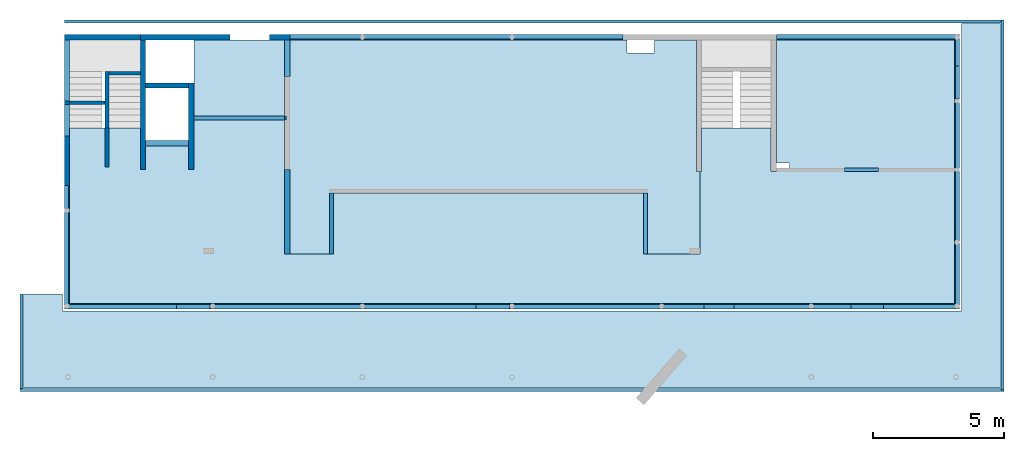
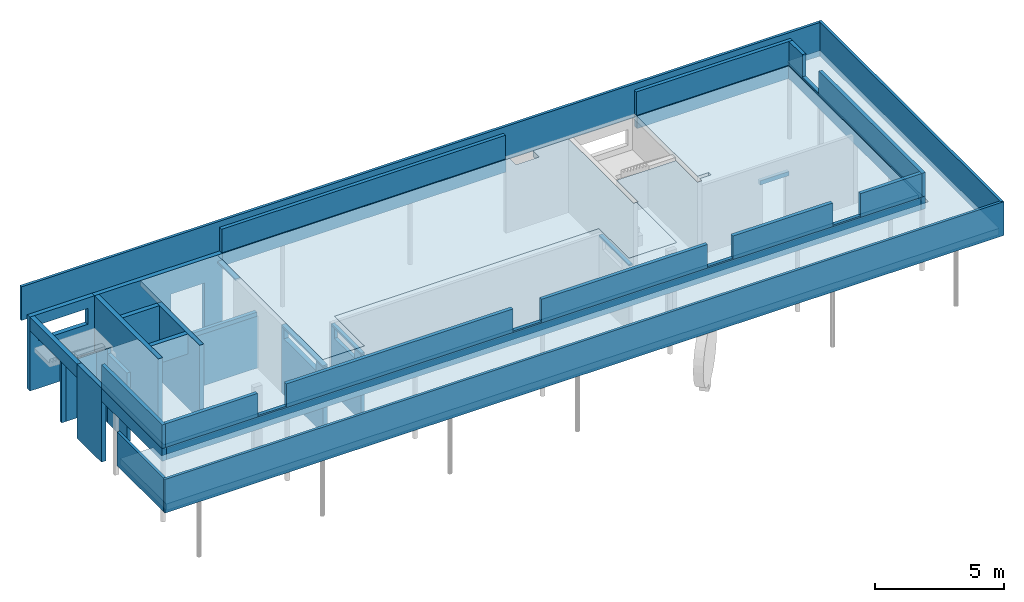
# One storey, part 3 of 5: 32 beams, 14 walls, 3 slabs, 4 openings.
"""IFC4 building model written with IfcOpenShell, lengths in metres."""

from ifc_helpers import new_model, entity, si_unit, converted_unit, derived_unit, frame, frame_2d, origin, origin_with_axes, place, context, subcontext, project, spatial, polyline, rectangle, outline, extrude, clip, halfspace, faceted_brep, material, element, save


model = new_model("IFC4")

# Units and contexts
model_context = context("Model", 3, precision=1e-05, world=origin())
plan_context = context("Plan", 2, precision=1e-05, world=origin())
body_context = subcontext(model_context, "Body", "Model", "MODEL_VIEW")
ifc_project = project(units=[si_unit("LENGTHUNIT", "METRE"), si_unit("AREAUNIT", "SQUARE_METRE"), si_unit("VOLUMEUNIT", "CUBIC_METRE"), si_unit("MASSUNIT", "GRAM", prefix="KILO"), converted_unit("PLANEANGLEUNIT", "DEGREE", entity("IfcPlaneAngleMeasure", 0.0174532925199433), si_unit("PLANEANGLEUNIT", "RADIAN"), dimensions=[0, 0, 0, 0, 0, 0, 0]), derived_unit("THERMALTRANSMITTANCEUNIT", [(si_unit("POWERUNIT", "WATT"), 1), (si_unit("THERMODYNAMICTEMPERATUREUNIT", "KELVIN"), -1), (si_unit("LENGTHUNIT", "METRE"), -2)]), derived_unit("VOLUMETRICFLOWRATEUNIT", [(si_unit("LENGTHUNIT", "METRE"), 3), (converted_unit("TIMEUNIT", "hour", entity("IfcTimeMeasure", 3600.0), si_unit("TIMEUNIT", "SECOND"), dimensions=[0, 0, 1, 0, 0, 0, 0]), -1), (si_unit("LENGTHUNIT", "METRE"), -1)])], contexts=[model_context, plan_context])

# Site, building, storey
site_placement = place(None, origin())
site = spatial("IfcSite", under=ifc_project, at=site_placement, Name="Site", CompositionType="ELEMENT")
building_placement = place(site_placement, origin())
building = spatial("IfcBuilding", under=site, at=building_placement, Name="Admin", CompositionType="ELEMENT")
storey_placement = place(building_placement, frame((0.0, 0.0, -0.26)))
storey = spatial("IfcBuildingStorey", under=building, at=storey_placement, Name="00-Rez", CompositionType="ELEMENT", Elevation=-0.26)

# Beams
ifc_material_1 = material(Name="C30/37")
beam_1_placement = place(storey_placement, frame((53.8198042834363, 17.1094493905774, 2.38)))
element("IfcBeam", 1, at=beam_1_placement, inside=storey, material=ifc_material_1, Name="Linteau préfab.", PredefinedType="NOTDEFINED", context=body_context, shape_type="SweptSolid", body=[
    extrude(rectangle(XDim=0.15, YDim=0.2, at=frame_2d((0.075, 0.1), x_axis=(1.0, 0.0))), frame((0.0, 0.0, 0.0), z_axis=(1.0, 0.0, 0.0), x_axis=(0.0, 1.0, 0.0)), (0.0, 0.0, 1.0), 1.309995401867),
])
ifc_material_2 = material(Name="Béton architectonique")
beam_2_placement = place(storey_placement, frame((59.7997996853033, 22.9094493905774, 2.96), z_axis=(0.0, 0.0, 1.0), x_axis=(-1.0, 0.0, 0.0)))
element("IfcBeam", 2, at=beam_2_placement, inside=storey, material=ifc_material_2, Name="PBAr.0.04", PredefinedType="NOTDEFINED", context=body_context, shape_type="SweptSolid", body=[
    extrude(rectangle(XDim=0.12, YDim=1.6, at=frame_2d((0.06, 0.8), x_axis=(1.0, 0.0))), frame((0.0, 0.0, 0.0), z_axis=(1.0, 0.0, 0.0), x_axis=(0.0, 1.0, 0.0)), (0.0, 0.0, 1.0), 35.7998609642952),
])
ifc_material_3 = material(Name="Béton architectonique")
beam_3_placement = place(storey_placement, frame((22.2998001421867, 8.70944939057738, 2.96)))
element("IfcBeam", 3, at=beam_3_placement, inside=storey, material=ifc_material_3, Name="PBAr.0.02", PredefinedType="NOTDEFINED", context=body_context, shape_type="Brep", body=[
    faceted_brep([(-3.63797880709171e-15, 0.12, 0.0), (37.4999995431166, 0.12, 0.0), (37.4999995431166, 0.12, 1.6), (-3.63797880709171e-15, 0.12, 1.6), (37.4999995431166, 0.05, 0.0), (37.4999995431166, 0.05, 1.6), (37.6199995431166, 0.05, 0.0), (37.6199995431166, 0.05, 1.6), (37.6199995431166, 0.0, 0.0), (37.6199995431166, 0.0, 1.6), (-3.63797880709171e-15, 0.0, 0.0), (-3.63797880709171e-15, 0.0, 1.6)], [[[0, 1, 2, 3]], [[1, 4, 5, 2]], [[4, 6, 7, 5]], [[6, 8, 9, 7]], [[8, 10, 11, 9]], [[10, 0, 3, 11]], [[11, 3, 2, 5, 7, 9]], [[0, 10, 8, 6, 4, 1]]], orient=[[False], [False], [False], [False], [False], [False], [False], [False]]),
])
ifc_material_4 = material(Name="Béton architectonique")
beam_4_placement = place(storey_placement, frame((22.2998001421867, 12.4294494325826, 2.96), z_axis=(0.0, 0.0, 1.0), x_axis=(0.0, -1.0, 0.0)))
element("IfcBeam", 4, at=beam_4_placement, inside=storey, material=ifc_material_4, Name="PBAr.0.01", PredefinedType="NOTDEFINED", context=body_context, shape_type="SweptSolid", body=[
    extrude(rectangle(XDim=0.12, YDim=1.6, at=frame_2d((0.06, 0.8), x_axis=(1.0, 0.0))), frame((0.0, 0.0, 0.0), z_axis=(1.0, 0.0, 0.0), x_axis=(0.0, 1.0, 0.0)), (0.0, 0.0, 1.0), 3.60000004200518),
])
ifc_material_5 = material(Name="Béton architectonique")
beam_5_placement = place(storey_placement, frame((59.9197996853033, 8.75944939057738, 2.96), z_axis=(0.0, 0.0, 1.0), x_axis=(0.0, 1.0, 0.0)))
element("IfcBeam", 5, at=beam_5_placement, inside=storey, material=ifc_material_5, Name="PBAr.0.03", PredefinedType="NOTDEFINED", context=body_context, shape_type="SweptSolid", body=[
    extrude(rectangle(XDim=0.12, YDim=1.6, at=frame_2d((0.06, 0.8), x_axis=(1.0, 0.0))), frame((0.0, 0.0, 0.0), z_axis=(1.0, 0.0, 0.0), x_axis=(0.0, 1.0, 0.0)), (0.0, 0.0, 1.0), 14.15),
])
ifc_material_6 = material(Name="C30/37")
beam_6_placement = place(storey_placement, frame((48.4598001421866, 11.8694493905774, 3.51)))
element("IfcBeam", 6, at=beam_6_placement, inside=storey, material=ifc_material_6, Name="PBA.0.02", PredefinedType="NOTDEFINED", context=body_context, shape_type="SweptSolid", body=[
    extrude(rectangle(XDim=0.16, YDim=0.07, at=frame_2d((0.08, 0.035), x_axis=(1.0, 0.0))), frame((0.0, 0.0, 0.0), z_axis=(1.0, 0.0, 0.0), x_axis=(0.0, 1.0, 0.0)), (0.0, 0.0, 1.0), 1.12999954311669),
])
ifc_material_7 = material(Name="C30/37")
beam_7_placement = place(storey_placement, frame((39.7297996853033, 11.8694493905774, 3.51)))
element("IfcBeam", 7, at=beam_7_placement, inside=storey, material=ifc_material_7, Name="PBA.0.02", PredefinedType="NOTDEFINED", context=body_context, shape_type="SweptSolid", body=[
    extrude(rectangle(XDim=0.16, YDim=0.07, at=frame_2d((0.08, 0.035), x_axis=(1.0, 0.0))), frame((0.0, 0.0, 0.0), z_axis=(1.0, 0.0, 0.0), x_axis=(0.0, 1.0, 0.0)), (0.0, 0.0, 1.0), 1.28),
])
ifc_material_8 = material(Name="C30/37")
beam_8_placement = place(storey_placement, frame((41.0097996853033, 11.8694493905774, 3.51)))
element("IfcBeam", 8, at=beam_8_placement, inside=storey, material=ifc_material_8, Name="PBA.0.02", PredefinedType="NOTDEFINED", context=body_context, shape_type="SweptSolid", body=[
    extrude(rectangle(XDim=0.16, YDim=1.12, at=frame_2d((0.08, 0.56), x_axis=(1.0, 0.0))), frame((0.0, 0.0, 0.0), z_axis=(1.0, 0.0, 0.0), x_axis=(0.0, 1.0, 0.0)), (0.0, 0.0, 1.0), 7.4500004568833),
])
ifc_material_9 = material(Name="C30/37")
beam_9_placement = place(storey_placement, frame((29.5698001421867, 11.8694493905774, 3.51)))
element("IfcBeam", 9, at=beam_9_placement, inside=storey, material=ifc_material_9, Name="PBA.0.02", PredefinedType="NOTDEFINED", context=body_context, shape_type="SweptSolid", body=[
    extrude(rectangle(XDim=0.16, YDim=1.12, at=frame_2d((0.08, 0.56), x_axis=(1.0, 0.0))), frame((0.0, 0.0, 0.0), z_axis=(1.0, 0.0, 0.0), x_axis=(0.0, 1.0, 0.0)), (0.0, 0.0, 1.0), 10.1599995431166),
])
ifc_material_10 = material(Name="C30/37")
beam_10_placement = place(storey_placement, frame((28.2898001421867, 11.8694493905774, 3.51)))
element("IfcBeam", 10, at=beam_10_placement, inside=storey, material=ifc_material_10, Name="PBA.0.02", PredefinedType="NOTDEFINED", context=body_context, shape_type="SweptSolid", body=[
    extrude(rectangle(XDim=0.16, YDim=0.07, at=frame_2d((0.08, 0.035), x_axis=(1.0, 0.0))), frame((0.0, 0.0, 0.0), z_axis=(1.0, 0.0, 0.0), x_axis=(0.0, 1.0, 0.0)), (0.0, 0.0, 1.0), 1.28),
])
ifc_material_11 = material(Name="C30/37")
beam_11_placement = place(storey_placement, frame((49.5897996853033, 11.8694493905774, 3.51)))
element("IfcBeam", 11, at=beam_11_placement, inside=storey, material=ifc_material_11, Name="PBA.0.02", PredefinedType="NOTDEFINED", context=body_context, shape_type="SweptSolid", body=[
    extrude(rectangle(XDim=0.16, YDim=1.12, at=frame_2d((0.08, 0.56), x_axis=(1.0, 0.0))), frame((0.0, 0.0, 0.0), z_axis=(1.0, 0.0, 0.0), x_axis=(0.0, 1.0, 0.0)), (0.0, 0.0, 1.0), 4.48),
])
ifc_material_12 = material(Name="C30/37")
beam_12_placement = place(storey_placement, frame((55.3097996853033, 11.8694493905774, 3.51)))
element("IfcBeam", 12, at=beam_12_placement, inside=storey, material=ifc_material_12, Name="PBA.0.02", PredefinedType="NOTDEFINED", context=body_context, shape_type="SweptSolid", body=[
    extrude(rectangle(XDim=0.16, YDim=1.12, at=frame_2d((0.08, 0.56), x_axis=(1.0, 0.0))), frame((0.0, 0.0, 0.0), z_axis=(1.0, 0.0, 0.0), x_axis=(0.0, 1.0, 0.0)), (0.0, 0.0, 1.0), 2.75000000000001),
])
ifc_material_13 = material(Name="C30/37")
beam_13_placement = place(storey_placement, frame((54.0697996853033, 11.8694493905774, 3.51)))
element("IfcBeam", 13, at=beam_13_placement, inside=storey, material=ifc_material_13, Name="PBA.0.02", PredefinedType="NOTDEFINED", context=body_context, shape_type="SweptSolid", body=[
    extrude(rectangle(XDim=0.16, YDim=0.07, at=frame_2d((0.08, 0.035), x_axis=(1.0, 0.0))), frame((0.0, 0.0, 0.0), z_axis=(1.0, 0.0, 0.0), x_axis=(0.0, 1.0, 0.0)), (0.0, 0.0, 1.0), 1.24),
])
ifc_material_14 = material(Name="C30/37")
beam_14_placement = place(storey_placement, frame((58.2197996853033, 19.8844493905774, 3.51), z_axis=(0.0, 0.0, 1.0), x_axis=(0.0, 1.0, 0.0)))
element("IfcBeam", 14, at=beam_14_placement, inside=storey, material=ifc_material_14, Name="PBA.0.03", PredefinedType="NOTDEFINED", context=body_context, shape_type="SweptSolid", body=[
    extrude(rectangle(XDim=0.16, YDim=0.07, at=frame_2d((0.08, 0.035), x_axis=(1.0, 0.0))), frame((0.0, 0.0, 0.0), z_axis=(1.0, 0.0, 0.0), x_axis=(0.0, 1.0, 0.0)), (0.0, 0.0, 1.0), 1.26499993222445),
])
ifc_material_15 = material(Name="C30/37")
beam_15_placement = place(storey_placement, frame((58.2197996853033, 21.1494493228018, 3.51), z_axis=(0.0, 0.0, 1.0), x_axis=(0.0, 1.0, 0.0)))
element("IfcBeam", 15, at=beam_15_placement, inside=storey, material=ifc_material_15, Name="PBA.0.03", PredefinedType="NOTDEFINED", context=body_context, shape_type="SweptSolid", body=[
    extrude(rectangle(XDim=0.16, YDim=1.12, at=frame_2d((0.08, 0.56), x_axis=(1.0, 0.0))), frame((0.0, 0.0, 0.0), z_axis=(1.0, 0.0, 0.0), x_axis=(0.0, 1.0, 0.0)), (0.0, 0.0, 1.0), 1.04000006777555),
])
ifc_material_16 = material(Name="C30/37")
beam_16_placement = place(storey_placement, frame((24.1598001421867, 11.8694493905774, 3.51)))
element("IfcBeam", 16, at=beam_16_placement, inside=storey, material=ifc_material_16, Name="PBA.0.02", PredefinedType="NOTDEFINED", context=body_context, shape_type="SweptSolid", body=[
    extrude(rectangle(XDim=0.16, YDim=1.12, at=frame_2d((0.08, 0.56), x_axis=(1.0, 0.0))), frame((0.0, 0.0, 0.0), z_axis=(1.0, 0.0, 0.0), x_axis=(0.0, 1.0, 0.0)), (0.0, 0.0, 1.0), 4.12999999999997),
])
ifc_material_17 = material(Name="C30/37")
beam_17_placement = place(storey_placement, frame((58.2197996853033, 11.8694493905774, 3.51), z_axis=(0.0, 0.0, 1.0), x_axis=(0.0, 1.0, 0.0)))
element("IfcBeam", 17, at=beam_17_placement, inside=storey, material=ifc_material_17, Name="PBA.0.03", PredefinedType="NOTDEFINED", context=body_context, shape_type="SweptSolid", body=[
    extrude(rectangle(XDim=0.16, YDim=1.12, at=frame_2d((0.08, 0.56), x_axis=(1.0, 0.0))), frame((0.0, 0.0, 0.0), z_axis=(1.0, 0.0, 0.0), x_axis=(0.0, 1.0, 0.0)), (0.0, 0.0, 1.0), 8.01500005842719),
])
ifc_material_18 = material(Name="C30/37")
beam_18_placement = place(storey_placement, frame((24.1998001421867, 11.8694493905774, 2.91)))
element("IfcBeam", 18, at=beam_18_placement, inside=storey, material=ifc_material_18, Name="PBA.0.02", PredefinedType="NOTDEFINED", context=body_context, shape_type="SweptSolid", body=[
    extrude(rectangle(XDim=0.2, YDim=0.6, at=frame_2d((0.1, 0.3), x_axis=(1.0, 0.0))), frame((0.0, 0.0, 0.0), z_axis=(1.0, 0.0, 0.0), x_axis=(0.0, 1.0, 0.0)), (0.0, 0.0, 1.0), 33.8199995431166),
])
ifc_material_19 = material(Name="C30/37")
beam_19_placement = place(storey_placement, frame((58.2197996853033, 11.8694493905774, 2.91), z_axis=(0.0, 0.0, 1.0), x_axis=(0.0, 1.0, 0.0)))
element("IfcBeam", 19, at=beam_19_placement, inside=storey, material=ifc_material_19, Name="PBA.0.03", PredefinedType="NOTDEFINED", context=body_context, shape_type="SweptSolid", body=[
    extrude(rectangle(XDim=0.2, YDim=0.6, at=frame_2d((0.1, 0.3), x_axis=(1.0, 0.0))), frame((0.0, 0.0, 0.0), z_axis=(1.0, 0.0, 0.0), x_axis=(0.0, 1.0, 0.0)), (0.0, 0.0, 1.0), 10.28),
])
ifc_material_20 = material(Name="C30/37")
beam_20_placement = place(storey_placement, frame((27.0998295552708, 18.0994421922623, 2.56)))
element("IfcBeam", 20, at=beam_20_placement, inside=storey, material=ifc_material_20, Name="PBA.0.06", PredefinedType="NOTDEFINED", context=body_context, shape_type="SweptSolid", body=[
    extrude(rectangle(XDim=0.2, YDim=0.95, at=frame_2d((0.1, 0.475), x_axis=(1.0, 0.0))), frame((0.0, 0.0, 0.0), z_axis=(1.0, 0.0, 0.0), x_axis=(0.0, 1.0, 0.0)), (0.0, 0.0, 1.0), 1.65),
])
ifc_material_21 = material(Name="C30/37")
beam_21_placement = place(storey_placement, frame((28.9498295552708, 19.0895230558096, 2.46)))
element("IfcBeam", 21, at=beam_21_placement, inside=storey, material=ifc_material_21, Name="PBA.0.07", PredefinedType="NOTDEFINED", context=body_context, shape_type="SweptSolid", body=[
    extrude(rectangle(XDim=0.15, YDim=0.2, at=frame_2d((0.075, 0.1), x_axis=(1.0, 0.0))), frame((0.0, 0.0, 0.0), z_axis=(1.0, 0.0, 0.0), x_axis=(0.0, 1.0, 0.0)), (0.0, 0.0, 1.0), 3.46599017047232),
])
ifc_material_22 = material(Name="C30/37")
beam_22_placement = place(storey_placement, frame((32.4158197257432, 17.1894528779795, 3.13), z_axis=(0.0, 0.0, 1.0), x_axis=(0.0, -1.0, 0.0)))
element("IfcBeam", 22, at=beam_22_placement, inside=storey, material=ifc_material_22, Name="PBA.0.09", PredefinedType="NOTDEFINED", context=body_context, shape_type="SweptSolid", body=[
    extrude(rectangle(XDim=0.214, YDim=0.08, at=frame_2d((0.107, 0.04), x_axis=(1.0, 0.0))), frame((0.0, 0.0, 0.0), z_axis=(1.0, 0.0, 0.0), x_axis=(0.0, 1.0, 0.0)), (0.0, 0.0, 1.0), 3.22),
])
ifc_material_23 = material(Name="C30/37")
beam_23_placement = place(storey_placement, frame((46.1398001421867, 16.2894493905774, 3.13), z_axis=(0.0, 0.0, 1.0), x_axis=(0.0, -1.0, 0.0)))
element("IfcBeam", 23, at=beam_23_placement, inside=storey, material=ifc_material_23, Name="PBA.0.11", PredefinedType="NOTDEFINED", context=body_context, shape_type="SweptSolid", body=[
    extrude(rectangle(XDim=0.15, YDim=0.08, at=frame_2d((0.075, 0.04), x_axis=(1.0, 0.0))), frame((0.0, 0.0, 0.0), z_axis=(1.0, 0.0, 0.0), x_axis=(0.0, 1.0, 0.0)), (0.0, 0.0, 1.0), 2.31944939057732),
])
ifc_material_24 = material(Name="C30/37")
beam_24_placement = place(storey_placement, frame((34.1298183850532, 16.2894531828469, 3.13), z_axis=(0.0, 0.0, 1.0), x_axis=(0.0, -1.0, 0.0)))
element("IfcBeam", 24, at=beam_24_placement, inside=storey, material=ifc_material_24, Name="PBA.0.10", PredefinedType="NOTDEFINED", context=body_context, shape_type="SweptSolid", body=[
    extrude(rectangle(XDim=0.15, YDim=0.08, at=frame_2d((0.075, 0.04), x_axis=(1.0, 0.0))), frame((0.0, 0.0, 0.0), z_axis=(1.0, 0.0, 0.0), x_axis=(0.0, 1.0, 0.0)), (0.0, 0.0, 1.0), 2.32),
])
ifc_material_25 = material(Name="C30/37")
beam_25_placement = place(storey_placement, frame((32.4158197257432, 22.1494528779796, 3.13), z_axis=(0.0, 0.0, 1.0), x_axis=(0.0, -1.0, 0.0)))
element("IfcBeam", 25, at=beam_25_placement, inside=storey, material=ifc_material_25, Name="PBA.0.08", PredefinedType="NOTDEFINED", context=body_context, shape_type="SweptSolid", body=[
    extrude(rectangle(XDim=0.214, YDim=0.08, at=frame_2d((0.107, 0.04), x_axis=(1.0, 0.0))), frame((0.0, 0.0, 0.0), z_axis=(1.0, 0.0, 0.0), x_axis=(0.0, 1.0, 0.0)), (0.0, 0.0, 1.0), 1.40000000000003),
])
ifc_material_26 = material(Name="C30/37")
beam_26_placement = place(storey_placement, frame((23.9998001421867, 22.1494493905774, 2.87), z_axis=(0.0, 0.0, 1.0), x_axis=(0.0, -1.0, 0.0)))
element("IfcBeam", 26, at=beam_26_placement, inside=storey, material=ifc_material_26, Name="PBA.0.12", PredefinedType="NOTDEFINED", context=body_context, shape_type="SweptSolid", body=[
    extrude(rectangle(XDim=0.2, YDim=0.64, at=frame_2d((0.1, 0.32), x_axis=(1.0, 0.0))), frame((0.0, 0.0, 0.0), z_axis=(1.0, 0.0, 0.0), x_axis=(0.0, 1.0, 0.0)), (0.0, 0.0, 1.0), 3.67989420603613),
])
ifc_material_27 = material(Name="C30/37")
beam_27_placement = place(storey_placement, frame((23.9998001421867, 16.5894493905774, 3.51), z_axis=(0.0, 0.0, 1.0), x_axis=(0.0, -1.0, 0.0)))
element("IfcBeam", 27, at=beam_27_placement, inside=storey, material=ifc_material_27, Name="PBA.0.01", PredefinedType="NOTDEFINED", context=body_context, shape_type="SweptSolid", body=[
    extrude(rectangle(XDim=0.16, YDim=1.12, at=frame_2d((0.08, 0.56), x_axis=(1.0, 0.0))), frame((0.0, 0.0, 0.0), z_axis=(1.0, 0.0, 0.0), x_axis=(0.0, 1.0, 0.0)), (0.0, 0.0, 1.0), 4.72),
])
ifc_material_28 = material(Name="C30/37")
beam_28_placement = place(storey_placement, frame((23.9998001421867, 16.5894493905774, 2.91), z_axis=(0.0, 0.0, 1.0), x_axis=(0.0, -1.0, 0.0)))
element("IfcBeam", 28, at=beam_28_placement, inside=storey, material=ifc_material_28, Name="PBA.0.01", PredefinedType="NOTDEFINED", context=body_context, shape_type="SweptSolid", body=[
    extrude(rectangle(XDim=0.2, YDim=0.6, at=frame_2d((0.1, 0.3), x_axis=(1.0, 0.0))), frame((0.0, 0.0, 0.0), z_axis=(1.0, 0.0, 0.0), x_axis=(0.0, 1.0, 0.0)), (0.0, 0.0, 1.0), 4.72),
])
ifc_material_29 = material(Name="C30/37")
beam_29_placement = place(storey_placement, frame((58.2197996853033, 22.3494493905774, 3.51), z_axis=(0.0, 0.0, 1.0), x_axis=(-1.0, 0.0, 0.0)))
element("IfcBeam", 29, at=beam_29_placement, inside=storey, material=ifc_material_29, Name="PBA.0.04", PredefinedType="NOTDEFINED", context=body_context, shape_type="SweptSolid", body=[
    extrude(rectangle(XDim=0.16, YDim=1.12, at=frame_2d((0.08, 0.56), x_axis=(1.0, 0.0))), frame((0.0, 0.0, 0.0), z_axis=(1.0, 0.0, 0.0), x_axis=(0.0, 1.0, 0.0)), (0.0, 0.0, 1.0), 6.9999995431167),
])
ifc_material_30 = material(Name="C30/37")
beam_30_placement = place(storey_placement, frame((58.2197996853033, 22.3494493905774, 2.91), z_axis=(0.0, 0.0, 1.0), x_axis=(-1.0, 0.0, 0.0)))
element("IfcBeam", 30, at=beam_30_placement, inside=storey, material=ifc_material_30, Name="PBA.0.04", PredefinedType="NOTDEFINED", context=body_context, shape_type="SweptSolid", body=[
    extrude(rectangle(XDim=0.2, YDim=0.6, at=frame_2d((0.1, 0.3), x_axis=(1.0, 0.0))), frame((0.0, 0.0, 0.0), z_axis=(1.0, 0.0, 0.0), x_axis=(0.0, 1.0, 0.0)), (0.0, 0.0, 1.0), 6.9999995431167),
])
ifc_material_31 = material(Name="C30/37")
beam_31_placement = place(storey_placement, frame((45.3498001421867, 22.3494493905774, 2.91), z_axis=(0.0, 0.0, 1.0), x_axis=(-0.99999999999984, -5.65906599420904e-07, 0.0)))
element("IfcBeam", 31, at=beam_31_placement, inside=storey, material=ifc_material_31, Name="PBA.0.05", PredefinedType="NOTDEFINED", context=body_context, shape_type="SweptSolid", body=[
    extrude(rectangle(XDim=0.199999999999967, YDim=0.6, at=frame_2d((0.0999999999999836, 0.3), x_axis=(1.0, 0.0))), frame((0.0, 0.0, 0.0), z_axis=(1.0, 0.0, 0.0), x_axis=(0.0, 1.0, 0.0)), (0.0, 0.0, 1.0), 12.7199701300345),
])
ifc_material_32 = material(Name="C30/37")
beam_32_placement = place(storey_placement, frame((45.3498001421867, 22.3494493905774, 3.51), z_axis=(0.0, 0.0, 1.0), x_axis=(-0.99999999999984, -5.65906599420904e-07, 0.0)))
element("IfcBeam", 32, at=beam_32_placement, inside=storey, material=ifc_material_32, Name="PBA.0.05", PredefinedType="NOTDEFINED", context=body_context, shape_type="SweptSolid", body=[
    extrude(rectangle(XDim=0.159999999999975, YDim=1.12, at=frame_2d((0.0799999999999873, 0.56), x_axis=(1.0, 0.0))), frame((0.0, 0.0, 0.0), z_axis=(1.0, 0.0, 0.0), x_axis=(0.0, 1.0, 0.0)), (0.0, 0.0, 1.0), 12.7199701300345),
])

# Slabs
ifc_material_33 = material(Name="C30/37")
slab_1_placement = place(storey_placement, frame((22.4398001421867, 8.84944939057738, 2.96)))
element("IfcSlab", 33, at=slab_1_placement, inside=storey, material=ifc_material_33, Name="Balcon", PredefinedType="FLOOR", context=body_context, shape_type="SweptSolid", body=[
    extrude(outline(polyline([(0.0, 3.58000004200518), (0.0, 0.0), (37.3399995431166, 0.0), (37.3399995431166, 13.92), (35.8599995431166, 13.92), (35.8599995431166, 2.94), (1.48000000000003, 2.94), (1.48000000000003, 3.58000004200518), (0.0, 3.58000004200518)])), origin_with_axes(), (0.0, 0.0, 1.0), 0.3),
])
ifc_material_34 = material(Name="C30/37")
slab_2_placement = place(storey_placement, frame((24.1998001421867, 12.0694493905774, 3.26)))
element("IfcSlab", 34, at=slab_2_placement, inside=storey, material=ifc_material_34, Name="Dalle Admin. 25 cm", PredefinedType="FLOOR", context=body_context, shape_type="SweptSolid", body=[
    extrude(outline(polyline([(8.21601958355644, 10.079992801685), (4.75002941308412, 10.079992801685), (4.75002941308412, 5.12999280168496), (4.55002941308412, 5.12999280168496), (4.55002941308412, 6.02999280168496), (2.90002941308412, 6.02999280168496), (2.90002941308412, 5.12999280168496), (2.70002941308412, 5.12999280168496), (2.70002941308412, 6.71999280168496), (0.0, 6.72), (0.0, 0.0), (33.8199995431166, 0.0), (33.8199995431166, 10.08), (27.0199999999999, 10.08), (27.0199999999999, 5.38), (27.5199999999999, 5.38), (27.5199999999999, 5.19), (27.0199999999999, 5.19), (27.0199999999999, 5.04), (26.8199999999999, 5.04), (26.8199999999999, 6.72), (24.1599999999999, 6.72), (24.1599999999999, 5.04), (24.0899999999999, 5.04), (24.0899999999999, 1.9), (21.94, 1.9), (21.94, 4.22), (10.0800182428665, 4.22000379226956), (10.0800182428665, 1.90000379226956), (8.21601958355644, 1.89999280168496), (8.21601958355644, 1.90000348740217), (8.21601958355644, 10.079992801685)])), origin_with_axes(), (0.0, 0.0, 1.0), 0.25),
])
ifc_material_35 = material(Name="C30/37")
slab_3_placement = place(storey_placement, frame((32.4158197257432, 13.9694421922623, 3.21)))
element("IfcSlab", 35, at=slab_3_placement, inside=storey, material=ifc_material_35, Name="Dalle Admin. 30 cm", PredefinedType="FLOOR", context=body_context, shape_type="SweptSolid", body=[
    extrude(outline(polyline([(0.0, 8.18000000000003), (0.0, 0.0), (1.86399865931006, 1.09905845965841e-05), (1.86399865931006, 2.3200109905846), (13.7239804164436, 2.32000719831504), (13.7239804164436, 7.19831504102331e-06), (15.8739804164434, 7.19831504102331e-06), (15.8739804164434, 3.14000719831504), (15.7439804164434, 3.14000719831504), (15.7439804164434, 8.18000719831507), (14.1439799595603, 8.18000719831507), (14.1439799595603, 7.68000719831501), (13.0939804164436, 7.68000719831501), (13.0939804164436, 8.18000719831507), (0.0, 8.18000000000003)])), origin_with_axes(), (0.0, 0.0, 1.0), 0.3),
])

# Wall, opening
ifc_material_36 = material(Name="C30/37")
wall_1_placement = place(storey_placement, frame((26.5998196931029, 22.3495206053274, -2.27373675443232e-16), z_axis=(0.0, 0.0, 1.0), x_axis=(-0.999999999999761, -6.91698342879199e-07, 0.0)))
wall_1 = element("IfcWall", 36, at=wall_1_placement, inside=storey, material=ifc_material_36, Name="Voile BA Axe 2.6", context=body_context, shape_type="SweptSolid", body=[
    extrude(outline(polyline([(-2.6000196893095, -0.20007661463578), (-0.400019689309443, -0.20007661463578), (-1.38344647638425e-07, -0.200007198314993), (-4.97906258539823e-12, -7.19831504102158e-06), (-0.400019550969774, -7.66146358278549e-05), (-2.60001955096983, -7.66146358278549e-05), (-2.90002941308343, 2.00594553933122e-06), (-2.90008182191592, -0.199985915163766), (-2.6000196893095, -0.20007661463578)])), frame((2.6000196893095, 0.20007661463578, 0.0), z_axis=(0.0, 0.0, 1.0), x_axis=(1.0, 0.0, 0.0)), (0.0, 0.0, 1.0), 3.51),
])
opening_1_placement = place(wall_1_placement, frame((2.20000013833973, 0.199999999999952, 2.26), z_axis=(-1.17479430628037e-10, -1.0, 0.0), x_axis=(0.0, 0.0, 1.0)))
element("IfcOpeningElement", 37, at=opening_1_placement, cuts=wall_1, Name="Baie de fenêtre", ObjectType="Opening", context=body_context, shape_type="SweptSolid", body=[
    extrude(outline(polyline([(0.0, 2.20000000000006), (0.75, 2.20000000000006), (0.75, 0.0), (0.0, 0.0), (0.0, 2.20000000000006)])), origin_with_axes(), (0.0, 0.0, 1.0), 0.2),
])

ifc_material_37 = material(Name="C30/37")
wall_2_placement = place(storey_placement, frame((32.6298300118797, 22.3495724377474, -2.27373675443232e-16), z_axis=(0.0, 0.0, 1.0), x_axis=(-0.99999999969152, -2.48386782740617e-05, 0.0)))
wall_2 = element("IfcWall", 38, at=wall_2_placement, inside=storey, material=ifc_material_37, Name="Voile BA Axe 2.6", context=body_context, shape_type="SweptSolid", body=[
    extrude(outline(polyline([(-5.73000542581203, -0.199987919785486), (-5.72379367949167e-05, -0.199987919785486), (0.0, 0.0), (-2.04999999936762, 5.09192904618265e-05), (-3.42998887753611, 1.20801528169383e-05), (-4.92998887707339, 4.93381702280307e-05), (-5.73000087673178, 0.000142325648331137), (-5.73000542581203, -0.199987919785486)])), frame((5.73000542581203, 0.199987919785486, 0.0), z_axis=(0.0, 0.0, 1.0), x_axis=(1.0, 0.0, 0.0)), (0.0, 0.0, 1.0), 3.51),
])
opening_2_placement = place(wall_2_placement, frame((0.800011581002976, 3.72577301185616e-05, 2.27373675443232e-16), z_axis=(2.48386782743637e-05, 0.99999999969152, 0.0), x_axis=(0.0, 0.0, 1.0)))
element("IfcOpeningElement", 39, at=opening_2_placement, cuts=wall_2, Name="Baie de porte", ObjectType="Opening", context=body_context, shape_type="SweptSolid", body=[
    extrude(outline(polyline([(0.0, 1.5), (2.38, 1.5), (2.38, 0.0), (0.0, 0.0), (0.0, 1.5)])), origin_with_axes(), (0.0, 0.0, 1.0), 0.2),
])

# Walls
ifc_material_38 = material(Name="C30/37")
wall_3_placement = place(storey_placement, frame((28.9498295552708, 17.1994421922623, -2.27373675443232e-16), z_axis=(0.0, 0.0, 1.0), x_axis=(0.0, 1.0, 0.0)))
element("IfcWall", 40, at=wall_3_placement, inside=storey, material=ifc_material_38, Name="Voile BA Esc. RDC", context=body_context, shape_type="SweptSolid", body=[
    extrude(rectangle(XDim=3.31, YDim=0.200000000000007, at=frame_2d((1.655, 0.100000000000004), x_axis=(1.0, 0.0))), origin_with_axes(), (0.0, 0.0, 1.0), 3.51),
])
ifc_material_39 = material(Name="C30/37")
wall_4_placement = place(storey_placement, frame((28.7498295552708, 20.5094421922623, -2.27373675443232e-16), z_axis=(0.0, 0.0, 1.0), x_axis=(-1.0, 0.0, 0.0)))
element("IfcWall", 41, at=wall_4_placement, inside=storey, material=ifc_material_39, Name="Voile BA Asc. RDC", context=body_context, shape_type="SweptSolid", body=[
    extrude(rectangle(XDim=1.65, YDim=0.2, at=frame_2d((0.824999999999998, 0.1), x_axis=(1.0, 0.0))), origin_with_axes(), (0.0, 0.0, 1.0), 3.51),
])
ifc_material_40 = material(Name="C30/37")
wall_5_placement = place(storey_placement, frame((26.8998295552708, 22.1494421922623, -2.27373675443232e-16), z_axis=(0.0, 0.0, 1.0), x_axis=(0.0, -1.0, 0.0)))
element("IfcWall", 42, at=wall_5_placement, inside=storey, material=ifc_material_40, Name="Voile BA Esc. RDC", context=body_context, shape_type="SweptSolid", body=[
    extrude(rectangle(XDim=4.95, YDim=0.2, at=frame_2d((2.475, 0.1), x_axis=(1.0, 0.0))), origin_with_axes(), (0.0, 0.0, 1.0), 3.51),
])
ifc_material_41 = material(Name="Silico-calcaire 15 cm")
wall_6_placement = place(storey_placement, frame((25.5498206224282, 20.9494493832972, 2.27373675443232e-16), z_axis=(0.0, 0.0, 1.0), x_axis=(8.17137453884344e-08, -0.999999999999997, 0.0)))
element("IfcWall", 43, at=wall_6_placement, inside=storey, material=ifc_material_41, Name="Maçonnerie Admin.", context=body_context, shape_type="Clipping", body=[
    clip(extrude(rectangle(XDim=2.15990000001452, YDim=0.149999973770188, at=frame_2d((1.07995000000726, 0.0749999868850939), x_axis=(1.0, 0.0))), origin_with_axes(), (0.0, 0.0, 1.0), 3.52018375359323), halfspace(frame((1.07995000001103, 0.0749999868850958, 2.68268374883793), z_axis=(0.612817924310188, -5.00756508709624e-08, -0.79022414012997), x_axis=(0.790224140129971, 0.0, 0.612817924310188)), True)),
])
ifc_material_42 = material(Name="Silico-calcaire 15 cm")
wall_7_placement = place(storey_placement, frame((26.8998295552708, 20.9494423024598, 0.0), z_axis=(0.0, 0.0, 1.0), x_axis=(-0.999999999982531, 5.91085585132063e-06, 0.0)))
element("IfcWall", 44, at=wall_7_placement, inside=storey, material=ifc_material_42, Name="Maçonnerie Admin.", context=body_context, shape_type="SweptSolid", body=[
    extrude(rectangle(XDim=1.20000895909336, YDim=0.149999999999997, at=frame_2d((0.600004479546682, 0.0749999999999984), x_axis=(1.0, 0.0))), origin_with_axes(), (0.0, 0.0, 1.0), 1.785),
])
ifc_material_43 = material(Name="Silico-calcaire 15 cm")
wall_8_placement = place(storey_placement, frame((25.6998208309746, 17.2895211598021, 0.0), z_axis=(0.0, 0.0, 1.0), x_axis=(-2.13681805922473e-08, 1.0, 0.0)))
element("IfcWall", 45, at=wall_8_placement, inside=storey, material=ifc_material_43, Name="Maçonnerie Admin.", context=body_context, shape_type="SweptSolid", body=[
    extrude(rectangle(XDim=1.50002823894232, YDim=0.150000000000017, at=frame_2d((0.750014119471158, 0.0750000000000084), x_axis=(1.0, 0.0))), origin_with_axes(), (0.0, 0.0, 1.0), 3.26),
])
ifc_material_44 = material(Name="Silico-calcaire 15 cm")
wall_9_placement = place(storey_placement, frame((24.1998001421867, 19.6695552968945, 0.0), z_axis=(0.0, 0.0, 1.0), x_axis=(1.0, -5.40337917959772e-09, 0.0)))
element("IfcWall", 46, at=wall_9_placement, inside=storey, material=ifc_material_44, Name="Maçonnerie Admin.", context=body_context, shape_type="Clipping", body=[
    clip(extrude(rectangle(XDim=1.35002026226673, YDim=0.15, at=frame_2d((0.675010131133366, 0.0750000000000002), x_axis=(1.0, 0.0))), origin_with_axes(), (0.0, 0.0, 1.0), 2.84549969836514), halfspace(frame((0.67501012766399, 0.075, 2.78733728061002), z_axis=(3.31128770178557e-09, -0.612817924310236, -0.790224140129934), x_axis=(1.0, 0.0, 4.19031436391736e-09)), True)),
])
ifc_material_45 = material(Name="Silico-calcaire 15 cm")
wall_10_placement = place(storey_placement, frame((32.4798300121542, 19.2395230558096, 0.0), z_axis=(0.0, 0.0, 1.0), x_axis=(-1.0, 0.0, 0.0)))
element("IfcWall", 47, at=wall_10_placement, inside=storey, material=ifc_material_45, Name="Maçonnerie Admin.", context=body_context, shape_type="SweptSolid", body=[
    extrude(rectangle(XDim=3.5300004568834, YDim=0.15, at=frame_2d((1.7650002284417, 0.075), x_axis=(1.0, 0.0))), origin_with_axes(), (0.0, 0.0, 1.0), 2.46),
])

# Wall, opening
ifc_material_46 = material(Name="Silico-calcaire 15 cm")
wall_11_placement = place(storey_placement, frame((34.2798183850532, 13.9694531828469, 0.0), z_axis=(0.0, 0.0, 1.0), x_axis=(0.0, 1.0, 0.0)))
wall_11 = element("IfcWall", 48, at=wall_11_placement, inside=storey, material=ifc_material_46, Name="Maçonnerie Admin.", context=body_context, shape_type="SweptSolid", body=[
    extrude(rectangle(XDim=2.32, YDim=0.15, at=frame_2d((1.16, 0.075), x_axis=(1.0, 0.0))), origin_with_axes(), (0.0, 0.0, 1.0), 3.13),
])
opening_3_placement = place(wall_11_placement, frame((2.07, 0.15, 2.66), z_axis=(0.0, -1.0, 0.0), x_axis=(0.0, 0.0, 1.0)))
element("IfcOpeningElement", 49, at=opening_3_placement, cuts=wall_11, Name="Percement dans mur", ObjectType="Opening", context=body_context, shape_type="SweptSolid", body=[
    extrude(outline(polyline([(0.0, 1.55), (0.47, 1.55), (0.47, 0.0), (0.0, 0.0), (0.0, 1.55)])), origin_with_axes(), (0.0, 0.0, 1.0), 0.15),
])

ifc_material_47 = material(Name="Silico-calcaire 21,4 cm")
wall_12_placement = place(storey_placement, frame((32.6298197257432, 13.9694528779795, 0.0), z_axis=(0.0, 0.0, 1.0), x_axis=(0.0, 1.0, 0.0)))
wall_12 = element("IfcWall", 50, at=wall_12_placement, inside=storey, material=ifc_material_47, Name="Maçonnerie Admin.", context=body_context, shape_type="SweptSolid", body=[
    extrude(rectangle(XDim=3.22, YDim=0.214, at=frame_2d((1.61, 0.107), x_axis=(1.0, 0.0))), origin_with_axes(), (0.0, 0.0, 1.0), 3.13),
])
opening_4_placement = place(wall_12_placement, frame((3.01999999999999, 0.214, 2.66), z_axis=(0.0, -1.0, 0.0), x_axis=(0.0, 0.0, 1.0)))
element("IfcOpeningElement", 51, at=opening_4_placement, cuts=wall_12, Name="Percement dans mur", ObjectType="Opening", context=body_context, shape_type="SweptSolid", body=[
    extrude(outline(polyline([(0.0, 2.5), (0.47, 2.5), (0.47, 0.0), (0.0, 0.0), (0.0, 2.5)])), origin_with_axes(), (0.0, 0.0, 1.0), 0.214),
])

# Walls
ifc_material_48 = material(Name="Silico-calcaire 15 cm")
wall_13_placement = place(storey_placement, frame((23.9997777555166, 19.6695552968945, 0.0)))
element("IfcWall", 52, at=wall_13_placement, inside=storey, material=ifc_material_48, Name="Maçonnerie Admin.", context=body_context, shape_type="SweptSolid", body=[
    extrude(rectangle(XDim=0.200022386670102, YDim=0.15, at=frame_2d((0.100011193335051, 0.075), x_axis=(1.0, 0.0))), origin_with_axes(), (0.0, 0.0, 1.0), 2.87),
])
ifc_material_49 = material(Name="C30/37")
wall_14_placement = place(storey_placement, frame((23.9998001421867, 18.4695551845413, -2.27373675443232e-16), z_axis=(0.0, 0.0, 1.0), x_axis=(0.0, -1.0, 0.0)))
element("IfcWall", 53, at=wall_14_placement, inside=storey, material=ifc_material_49, Name="Voile BA Axe 2.A", context=body_context, shape_type="SweptSolid", body=[
    extrude(rectangle(XDim=1.88010579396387, YDim=0.2, at=frame_2d((0.940052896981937, 0.1), x_axis=(1.0, 0.0))), origin_with_axes(), (0.0, 0.0, 1.0), 3.51),
])

save(model, "model.ifc")
